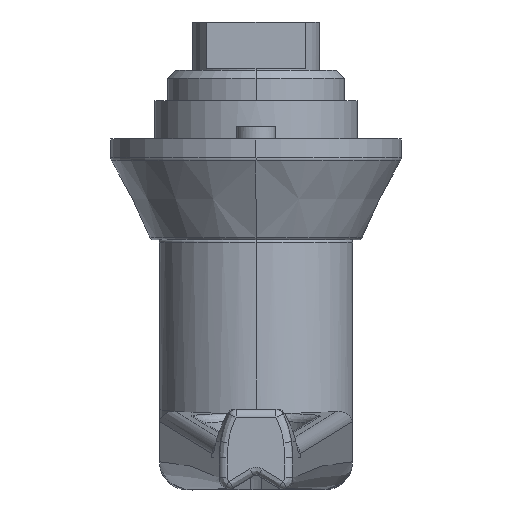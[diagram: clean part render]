
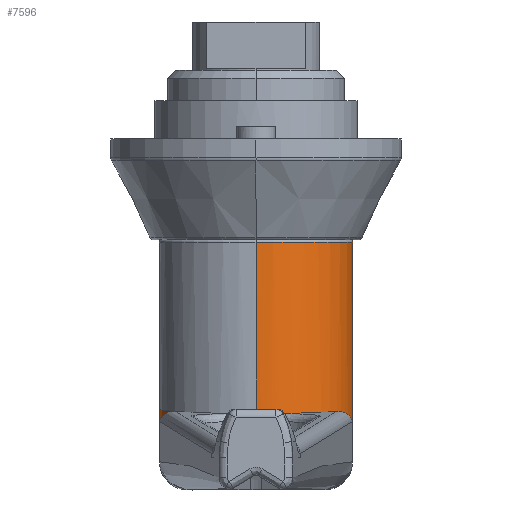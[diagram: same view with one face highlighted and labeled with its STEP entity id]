
A CAD part, left-side view. The second image highlights one B-rep face of the part: STEP entity #7596.
In plain terms, the highlighted cylindrical face has radius 12 mm (diameter 24 mm), a partial arc.
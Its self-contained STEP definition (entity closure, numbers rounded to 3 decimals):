
#2852=CARTESIAN_POINT('',(0.,0.,-30.7));
#2853=DIRECTION('',(0.,0.,-1.));
#2854=DIRECTION('',(0.,-1.,0.));
#2855=AXIS2_PLACEMENT_3D('',#2852,#2853,#2854);
#2857=CARTESIAN_POINT('',(0.,0.,-10.));
#2858=DIRECTION('',(0.,0.,-1.));
#2859=DIRECTION('',(0.,1.,0.));
#2860=AXIS2_PLACEMENT_3D('',#2857,#2858,#2859);
#2862=DIRECTION('',(0.,0.,-1.));
#2863=VECTOR('',#2862,5.004);
#2864=CARTESIAN_POINT('',(11.965,-0.92,-3.5));
#2865=LINE('',#2864,#2863);
#2866=CARTESIAN_POINT('',(0.,0.,-3.5));
#2867=DIRECTION('',(0.,0.,1.));
#2868=DIRECTION('',(0.997,-0.077,0.));
#2869=AXIS2_PLACEMENT_3D('',#2866,#2867,#2868);
#2887=DIRECTION('',(0.,0.,-1.));
#2888=VECTOR('',#2887,5.004);
#2889=CARTESIAN_POINT('',(-11.965,-0.92,-3.5));
#2890=LINE('',#2889,#2888);
#3073=CARTESIAN_POINT('',(-2.982,-11.623,
-9.495));
#3084=CARTESIAN_POINT('',(-2.982,-11.623,
-9.495));
#3085=CARTESIAN_POINT('',(-3.558,-11.476,
-9.502));
#3086=CARTESIAN_POINT('',(-4.675,-11.099,
-9.52));
#3087=CARTESIAN_POINT('',(-6.259,-10.289,
-9.558));
#3088=CARTESIAN_POINT('',(-7.705,-9.257,
-9.607));
#3089=CARTESIAN_POINT('',(-8.985,-8.02,
-9.665));
#3090=CARTESIAN_POINT('',(-9.703,-7.086,
-9.709));
#3091=CARTESIAN_POINT('',(-10.03,-6.588,
-9.733));
#3098=CARTESIAN_POINT('',(-10.03,-6.588,
-9.733));
#3099=CARTESIAN_POINT('',(-10.171,-6.373,
-9.743));
#3100=CARTESIAN_POINT('',(-10.439,-5.935,
-9.733));
#3101=CARTESIAN_POINT('',(-10.798,-5.253,
-9.653));
#3102=CARTESIAN_POINT('',(-11.109,-4.559,
-9.524));
#3103=CARTESIAN_POINT('',(-11.372,-3.856,
-9.36));
#3104=CARTESIAN_POINT('',(-11.588,-3.148,
-9.172));
#3105=CARTESIAN_POINT('',(-11.76,-2.426,
-8.964));
#3106=CARTESIAN_POINT('',(-11.889,-1.688,
-8.741));
#3107=CARTESIAN_POINT('',(-11.945,-1.178,
-8.583));
#3108=CARTESIAN_POINT('',(-11.965,-0.92,
-8.504));
#3120=CARTESIAN_POINT('',(11.965,-0.92,
-8.504));
#3121=CARTESIAN_POINT('',(11.945,-1.175,
-8.582));
#3122=CARTESIAN_POINT('',(11.89,-1.682,
-8.739));
#3123=CARTESIAN_POINT('',(11.76,-2.426,
-8.964));
#3124=CARTESIAN_POINT('',(11.586,-3.156,
-9.174));
#3125=CARTESIAN_POINT('',(11.366,-3.872,
-9.364));
#3126=CARTESIAN_POINT('',(11.102,-4.575,
-9.527));
#3127=CARTESIAN_POINT('',(10.793,-5.264,
-9.654));
#3128=CARTESIAN_POINT('',(10.438,-5.937,
-9.733));
#3129=CARTESIAN_POINT('',(10.17,-6.374,
-9.743));
#3130=CARTESIAN_POINT('',(10.03,-6.588,
-9.733));
#3191=CARTESIAN_POINT('',(11.965,-0.92,-10.));
#3192=CARTESIAN_POINT('',(11.926,-1.423,
-9.976));
#3193=CARTESIAN_POINT('',(11.785,-2.425,
-9.929));
#3194=CARTESIAN_POINT('',(11.387,-3.887,
-9.86));
#3195=CARTESIAN_POINT('',(10.807,-5.288,
-9.794));
#3196=CARTESIAN_POINT('',(10.307,-6.166,
-9.753));
#3197=CARTESIAN_POINT('',(10.03,-6.588,
-9.733));
#3199=DIRECTION('',(0.,0.,-1.));
#3200=VECTOR('',#3199,20.7);
#3201=CARTESIAN_POINT('',(0.,12.,-10.));
#3202=LINE('',#3201,#3200);
#3208=DIRECTION('',(0.,0.,1.));
#3209=VECTOR('',#3208,22.176);
#3210=CARTESIAN_POINT('',(0.,-12.,-30.7));
#3211=LINE('',#3210,#3209);
#3646=CARTESIAN_POINT('',(0.,-12.,
-8.524));
#4195=CARTESIAN_POINT('',(-2.982,-11.623,
-9.495));
#4196=CARTESIAN_POINT('',(-2.851,-11.657,
-9.494));
#4197=CARTESIAN_POINT('',(-2.59,-11.719,
-9.472));
#4198=CARTESIAN_POINT('',(-2.202,-11.798,
-9.397));
#4199=CARTESIAN_POINT('',(-1.821,-11.863,
-9.291));
#4200=CARTESIAN_POINT('',(-1.447,-11.914,
-9.162));
#4201=CARTESIAN_POINT('',(-1.081,-11.953,
-9.017));
#4202=CARTESIAN_POINT('',(-0.72,-11.98,
-8.86));
#4203=CARTESIAN_POINT('',(-0.361,-11.996,
-8.695));
#4204=CARTESIAN_POINT('',(-0.12,-12.,
-8.581));
#4205=CARTESIAN_POINT('',(0.,-12.,
-8.524));
#4471=CARTESIAN_POINT('',(0.,-12.,-30.7));
#4472=CARTESIAN_POINT('',(0.,12.,-30.7));
#4473=VERTEX_POINT('',#4471);
#4474=VERTEX_POINT('',#4472);
#4475=CARTESIAN_POINT('',(0.,12.,-10.));
#4476=VERTEX_POINT('',#4475);
#4478=VERTEX_POINT('',#3646);
#4491=VERTEX_POINT('',#3073);
#4522=CARTESIAN_POINT('',(11.965,-0.92,
-3.5));
#4523=CARTESIAN_POINT('',(-11.965,-0.92,
-3.5));
#4524=VERTEX_POINT('',#4522);
#4525=VERTEX_POINT('',#4523);
#4543=CARTESIAN_POINT('',(-11.965,-0.92,
-8.504));
#4545=VERTEX_POINT('',#4543);
#4547=CARTESIAN_POINT('',(-10.03,-6.588,
-9.733));
#4549=VERTEX_POINT('',#4547);
#4564=CARTESIAN_POINT('',(10.03,-6.588,
-9.733));
#4566=VERTEX_POINT('',#4564);
#4568=CARTESIAN_POINT('',(11.965,-0.92,
-8.504));
#4570=VERTEX_POINT('',#4568);
#4578=VERTEX_POINT('',#3191);
#7567=CARTESIAN_POINT('',(0.,0.,0.));
#7568=DIRECTION('',(0.,0.,1.));
#7569=DIRECTION('',(1.,0.,0.));
#7570=AXIS2_PLACEMENT_3D('',#7567,#7568,#7569);
#7571=CYLINDRICAL_SURFACE('',#7570,12.);
#7573=ORIENTED_EDGE('',*,*,#7572,.T.);
#7575=ORIENTED_EDGE('',*,*,#7574,.F.);
#7577=ORIENTED_EDGE('',*,*,#7576,.F.);
#7579=ORIENTED_EDGE('',*,*,#7578,.T.);
#7581=ORIENTED_EDGE('',*,*,#7580,.F.);
#7583=ORIENTED_EDGE('',*,*,#7582,.T.);
#7585=ORIENTED_EDGE('',*,*,#7584,.F.);
#7587=ORIENTED_EDGE('',*,*,#7586,.T.);
#7589=ORIENTED_EDGE('',*,*,#7588,.T.);
#7591=ORIENTED_EDGE('',*,*,#7590,.F.);
#7592=ORIENTED_EDGE('',*,*,#7558,.F.);
#7593=ORIENTED_EDGE('',*,*,#7076,.T.);
#7594=EDGE_LOOP('',(#7573,#7575,#7577,#7579,#7581,#7583,#7585,#7587,#7589,#7591,
#7592,#7593));
#7595=FACE_OUTER_BOUND('',#7594,.F.);
#7596=ADVANCED_FACE('',(#7595),#7571,.T.);
#2856=CIRCLE('',#2855,12.);
#2861=CIRCLE('',#2860,12.);
#2870=CIRCLE('',#2869,12.);
#3092=B_SPLINE_CURVE_WITH_KNOTS('',3,(#3084,#3085,#3086,#3087,#3088,#3089,#3090,
#3091),.UNSPECIFIED.,.F.,.F.,(4,1,1,1,1,4),(0.,0.2,0.4,0.6,0.8,1.),
.UNSPECIFIED.);
#3109=B_SPLINE_CURVE_WITH_KNOTS('',3,(#3098,#3099,#3100,#3101,#3102,#3103,#3104,
#3105,#3106,#3107,#3108),.UNSPECIFIED.,.F.,.F.,(4,1,1,1,1,1,1,1,4),(0.,
0.125,0.25,0.375,0.5,0.625,0.75,0.875,1.),.UNSPECIFIED.);
#3131=B_SPLINE_CURVE_WITH_KNOTS('',3,(#3120,#3121,#3122,#3123,#3124,#3125,#3126,
#3127,#3128,#3129,#3130),.UNSPECIFIED.,.F.,.F.,(4,1,1,1,1,1,1,1,4),(0.,
0.125,0.25,0.375,0.5,0.625,0.75,0.875,1.),.UNSPECIFIED.);
#3198=B_SPLINE_CURVE_WITH_KNOTS('',3,(#3191,#3192,#3193,#3194,#3195,#3196,
#3197),.UNSPECIFIED.,.F.,.F.,(4,1,1,1,4),(0.,0.25,0.5,0.75,1.),
.UNSPECIFIED.);
#4206=B_SPLINE_CURVE_WITH_KNOTS('',3,(#4195,#4196,#4197,#4198,#4199,#4200,#4201,
#4202,#4203,#4204,#4205),.UNSPECIFIED.,.F.,.F.,(4,1,1,1,1,1,1,1,4),(0.,
0.125,0.25,0.375,0.5,0.625,0.75,0.875,1.),.UNSPECIFIED.);
#7076=EDGE_CURVE('',#4524,#4525,#2870,.T.);
#7558=EDGE_CURVE('',#4524,#4570,#2865,.T.);
#7572=EDGE_CURVE('',#4525,#4545,#2890,.T.);
#7574=EDGE_CURVE('',#4549,#4545,#3109,.T.);
#7576=EDGE_CURVE('',#4491,#4549,#3092,.T.);
#7578=EDGE_CURVE('',#4491,#4478,#4206,.T.);
#7580=EDGE_CURVE('',#4473,#4478,#3211,.T.);
#7582=EDGE_CURVE('',#4473,#4474,#2856,.T.);
#7584=EDGE_CURVE('',#4476,#4474,#3202,.T.);
#7586=EDGE_CURVE('',#4476,#4578,#2861,.T.);
#7588=EDGE_CURVE('',#4578,#4566,#3198,.T.);
#7590=EDGE_CURVE('',#4570,#4566,#3131,.T.);
